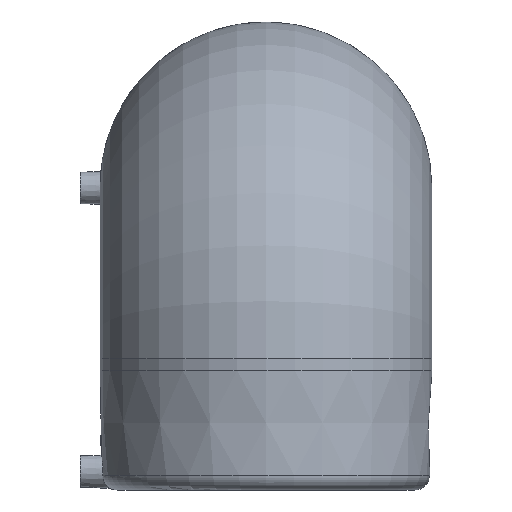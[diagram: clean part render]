
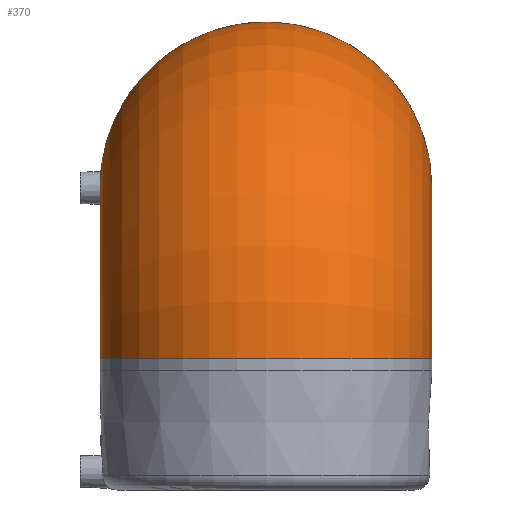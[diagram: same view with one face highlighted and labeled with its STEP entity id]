
A CAD part, left-side view. The second image highlights one B-rep face of the part: STEP entity #370.
In plain terms, the highlighted toroidal (fillet/blend) face has major radius 103 mm and minor radius 100 mm.
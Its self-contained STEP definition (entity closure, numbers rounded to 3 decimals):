
#47=TOROIDAL_SURFACE('',#428,103.,100.);
#56=CIRCLE('',#418,100.);
#58=CIRCLE('',#422,100.);
#105=ORIENTED_EDGE('',*,*,#166,.F.);
#106=ORIENTED_EDGE('',*,*,#168,.T.);
#166=EDGE_CURVE('',#203,#203,#56,.F.);
#168=EDGE_CURVE('',#205,#205,#58,.F.);
#203=VERTEX_POINT('',#680);
#205=VERTEX_POINT('',#686);
#258=EDGE_LOOP('',(#105));
#259=EDGE_LOOP('',(#106));
#317=FACE_BOUND('',#258,.T.);
#318=FACE_BOUND('',#259,.T.);
#370=ADVANCED_FACE('',(#317,#318),#47,.T.);
#418=AXIS2_PLACEMENT_3D('',#679,#492,#493);
#422=AXIS2_PLACEMENT_3D('',#685,#500,#501);
#428=AXIS2_PLACEMENT_3D('',#722,#512,#513);
#492=DIRECTION('',(-1.,0.,0.));
#493=DIRECTION('',(0.,0.,-1.));
#500=DIRECTION('',(0.,0.,-1.));
#501=DIRECTION('',(1.,0.,0.));
#512=DIRECTION('',(0.,1.,0.));
#513=DIRECTION('',(0.,0.,1.));
#679=CARTESIAN_POINT('',(103.,0.,182.));
#680=CARTESIAN_POINT('',(103.,0.,82.));
#685=CARTESIAN_POINT('',(0.,0.,79.));
#686=CARTESIAN_POINT('',(100.,0.,79.));
#722=CARTESIAN_POINT('',(103.,0.,79.));
